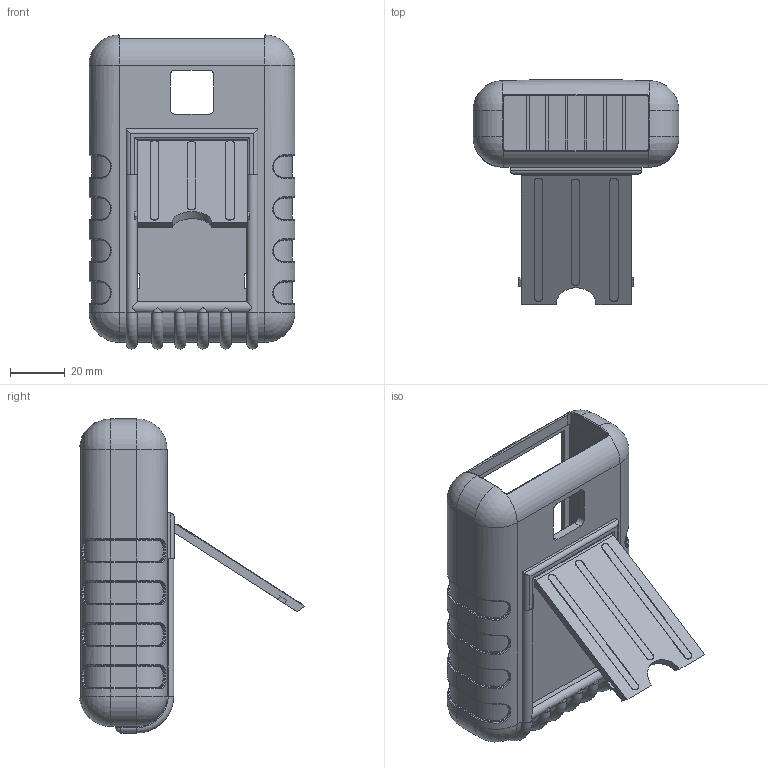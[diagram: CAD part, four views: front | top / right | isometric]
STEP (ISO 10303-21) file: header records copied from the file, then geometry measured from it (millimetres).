
FILE_DESCRIPTION (( 'STEP AP214' ), '1' );
FILE_NAME ('40 RBT Boot.STEP', '2020-06-12T22:34:19', ( 'Rudy' ), ( '' ), 'SwSTEP 2.0', 'SolidWorks 2014', '' );
FILE_SCHEMA (( 'AUTOMOTIVE_DESIGN' ));
Length unit declared in the file: inch
Products named in the file (3): 40 RBT Stand; 40 RBT Boot
Assembly tree (2 placements, depth 2):
  40 RBT Boot
    40 RBT Boot
    40 RBT Stand
Bounding box: 75 x 81.89 x 114.42 mm (x, y, z)
Volume: 72776 mm3; surface area: 42060.2 mm2
Topology: 2 solids, 2 shells, 507 faces, 1309 edges, 796 vertices
Faces by surface type: plane 168, cylinder 162, bspline 77, torus 76, sphere 14, cone 10
Entity records: 20825 total; most frequent: CARTESIAN_POINT 8794, ORIENTED_EDGE 2598, DIRECTION 2448, EDGE_CURVE 1299, AXIS2_PLACEMENT_3D 926, VERTEX_POINT 796, VECTOR 596, LINE 596
